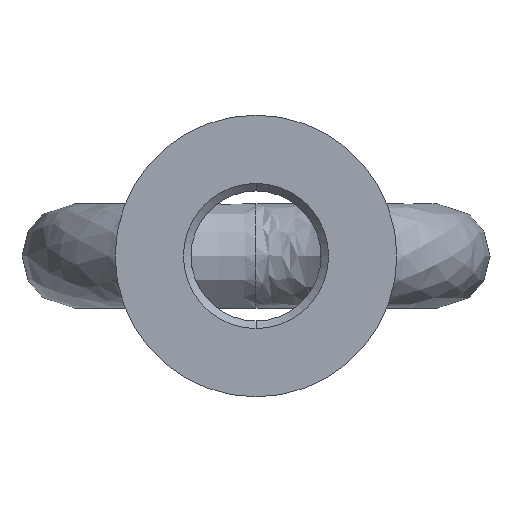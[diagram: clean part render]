
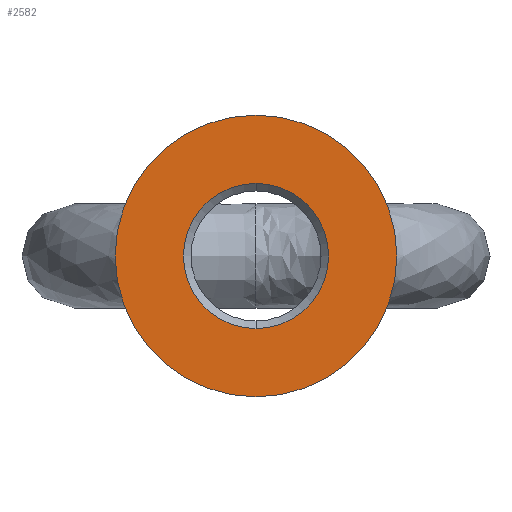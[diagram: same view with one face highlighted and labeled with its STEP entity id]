
A CAD part, front view. The second image highlights one B-rep face of the part: STEP entity #2582.
In plain terms, the highlighted planar face has unit normal (0, -1, 0).
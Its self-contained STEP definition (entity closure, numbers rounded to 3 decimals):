
#104 = DIRECTION ( 'NONE',  ( 0., 0., 1. ) ) ;
#183 = EDGE_LOOP ( 'NONE', ( #2460, #1384 ) ) ;
#230 = AXIS2_PLACEMENT_3D ( 'NONE', #2511, #1996, #3053 ) ;
#255 = DIRECTION ( 'NONE',  ( 0., 0., -1. ) ) ;
#272 = CARTESIAN_POINT ( 'NONE',  ( 0., 0., -32.5 ) ) ;
#420 = DIRECTION ( 'NONE',  ( 0., -1., 0. ) ) ;
#423 = CARTESIAN_POINT ( 'NONE',  ( 0., 0., 0. ) ) ;
#593 = EDGE_CURVE ( 'NONE', #1427, #1292, #877, .T. ) ;
#646 = VERTEX_POINT ( 'NONE', #272 ) ;
#673 = CARTESIAN_POINT ( 'NONE',  ( 0., 0., 0. ) ) ;
#862 = VERTEX_POINT ( 'NONE', #1198 ) ;
#877 = CIRCLE ( 'NONE', #1949, 16.75 ) ;
#946 = CARTESIAN_POINT ( 'NONE',  ( 0., 0., 0. ) ) ;
#1156 = PLANE ( 'NONE',  #3096 ) ;
#1187 = CARTESIAN_POINT ( 'NONE',  ( 0., 0., 0. ) ) ;
#1198 = CARTESIAN_POINT ( 'NONE',  ( 0., 0., 32.5 ) ) ;
#1292 = VERTEX_POINT ( 'NONE', #2547 ) ;
#1384 = ORIENTED_EDGE ( 'NONE', *, *, #3347, .F. ) ;
#1427 = VERTEX_POINT ( 'NONE', #3313 ) ;
#1510 = DIRECTION ( 'NONE',  ( 0., 1., 0. ) ) ;
#1689 = CIRCLE ( 'NONE', #1906, 32.5 ) ;
#1748 = EDGE_LOOP ( 'NONE', ( #2906, #2101 ) ) ;
#1906 = AXIS2_PLACEMENT_3D ( 'NONE', #673, #2471, #2962 ) ;
#1949 = AXIS2_PLACEMENT_3D ( 'NONE', #423, #1510, #255 ) ;
#1953 = EDGE_CURVE ( 'NONE', #1292, #1427, #3155, .T. ) ;
#1996 = DIRECTION ( 'NONE',  ( 0., 1., 0. ) ) ;
#2101 = ORIENTED_EDGE ( 'NONE', *, *, #1953, .T. ) ;
#2198 = DIRECTION ( 'NONE',  ( 0., 1., 0. ) ) ;
#2213 = DIRECTION ( 'NONE',  ( 0., 0., -1. ) ) ;
#2283 = AXIS2_PLACEMENT_3D ( 'NONE', #946, #2198, #104 ) ;
#2397 = CIRCLE ( 'NONE', #2283, 32.5 ) ;
#2439 = FACE_BOUND ( 'NONE', #1748, .T. ) ;
#2460 = ORIENTED_EDGE ( 'NONE', *, *, #2495, .F. ) ;
#2471 = DIRECTION ( 'NONE',  ( 0., 1., 0. ) ) ;
#2495 = EDGE_CURVE ( 'NONE', #646, #862, #1689, .T. ) ;
#2511 = CARTESIAN_POINT ( 'NONE',  ( 0., 0., 0. ) ) ;
#2547 = CARTESIAN_POINT ( 'NONE',  ( 0., 0., 16.75 ) ) ;
#2582 = ADVANCED_FACE ( 'NONE', ( #2439, #2947 ), #1156, .T. ) ;
#2906 = ORIENTED_EDGE ( 'NONE', *, *, #593, .T. ) ;
#2947 = FACE_OUTER_BOUND ( 'NONE', #183, .T. ) ;
#2962 = DIRECTION ( 'NONE',  ( 0., 0., 1. ) ) ;
#3053 = DIRECTION ( 'NONE',  ( 0., 0., -1. ) ) ;
#3096 = AXIS2_PLACEMENT_3D ( 'NONE', #1187, #420, #2213 ) ;
#3155 = CIRCLE ( 'NONE', #230, 16.75 ) ;
#3313 = CARTESIAN_POINT ( 'NONE',  ( 0., 0., -16.75 ) ) ;
#3347 = EDGE_CURVE ( 'NONE', #862, #646, #2397, .T. ) ;
